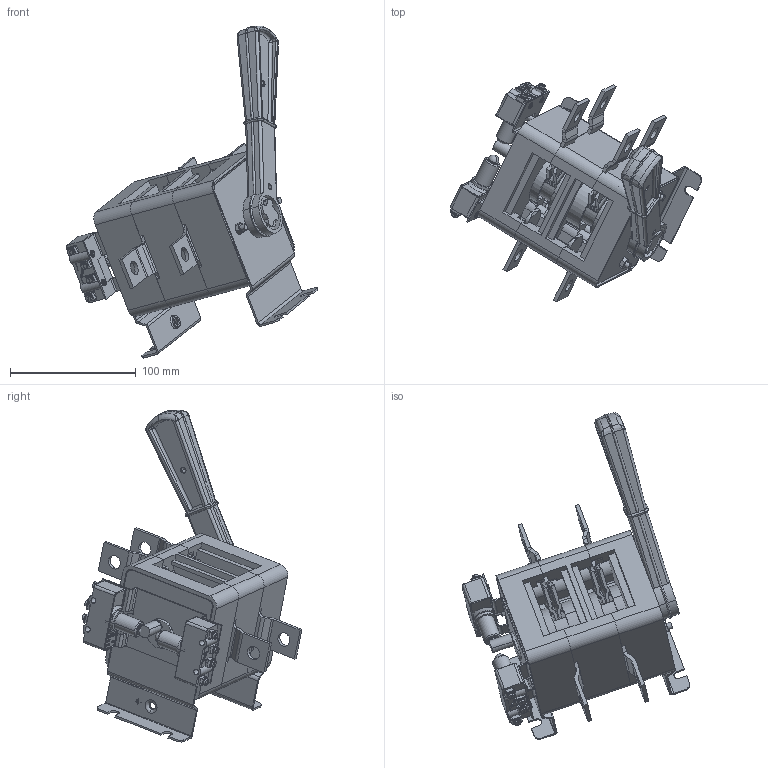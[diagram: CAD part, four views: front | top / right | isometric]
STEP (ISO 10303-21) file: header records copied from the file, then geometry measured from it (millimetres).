
FILE_DESCRIPTION (( 'STEP AP203' ), '1' );
FILE_NAME ('ÂÐ32-35À60221.STEP', '2022-07-29T08:20:47', ( '' ), ( '' ), 'SwSTEP 2.0', 'SolidWorks 2022', '' );
FILE_SCHEMA (( 'CONFIG_CONTROL_DESIGN' ));
Products named in the file (1): ﾂﾐ32-35ﾀ60221
Bounding box: 199.69 x 174.61 x 263.57 mm (x, y, z)
Volume: 529217.1 mm3; surface area: 314205 mm2
Topology: 88 solids, 88 shells, 3836 faces, 9910 edges, 6379 vertices
Faces by surface type: plane 2000, cylinder 968, bspline 660, cone 137, torus 61, sphere 10
Entity records: 146870 total; most frequent: CARTESIAN_POINT 56646, ORIENTED_EDGE 19800, DIRECTION 16897, EDGE_CURVE 9900, VERTEX_POINT 6379, VECTOR 5919, LINE 5919, AXIS2_PLACEMENT_3D 5489
